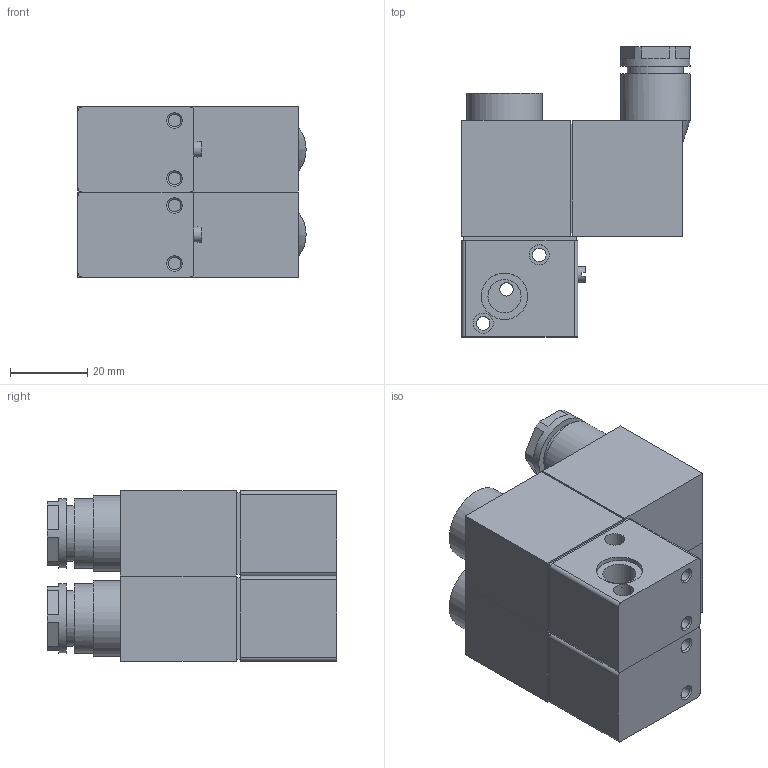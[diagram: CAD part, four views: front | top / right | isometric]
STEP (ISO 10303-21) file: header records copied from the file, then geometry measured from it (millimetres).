
FILE_DESCRIPTION(/* description */ ('STEP AP214'),/* implementation_level */ '2;1');
FILE_NAME(/* name */ '86-MS-3V-02-xxx.stp',/* time_stamp */ '2026-01-15T09:17:21+01:00',/* author */ ('Tschernatsch'),/* organization */ ('CADENAS'),/* preprocessor_version */ 'ST-DEVELOPER v20',/* originating_system */ 'Autodesk Inventor 2024',/* authorisation */ ' ');
FILE_SCHEMA (('AUTOMOTIVE_DESIGN { 1 0 10303 214 3 1 1 }'));
Length unit declared in the file: millimetre
Products named in the file (3): 3v1-06-LD-DC24V-2F; 3v1-06-LD-DC24V-2F3; 3v1-06-LD-DC24V-2F2
Assembly tree (4 placements, depth 2):
  3v1-06-LD-DC24V-2F
    3v1-06-LD-DC24V-2F3  x2
    3v1-06-LD-DC24V-2F2  x2
Bounding box: 59 x 75 x 44 mm (x, y, z)
Volume: 116396.1 mm3; surface area: 29721.5 mm2
Topology: 4 solids, 4 shells, 180 faces, 390 edges, 258 vertices
Faces by surface type: plane 122, cylinder 50, cone 8
Full cylindrical faces by diameter (mm): 3.242 x4, 3.5 x6, 4 x2, 4.3 x2, 5.2 x8, 8.566 x6, 11 x2, 12 x4, 14.4 x2, 18 x4, 19.6 x2
Entity records: 2617 total; most frequent: DIRECTION 461, CARTESIAN_POINT 423, ORIENTED_EDGE 390, EDGE_CURVE 195, AXIS2_PLACEMENT_3D 170, VERTEX_POINT 129, LINE 121, VECTOR 121
